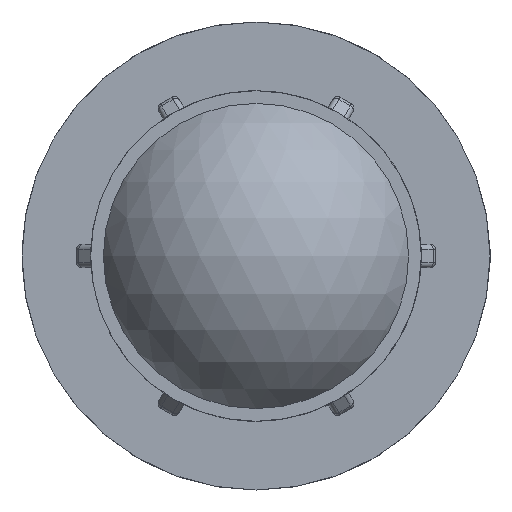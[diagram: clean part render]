
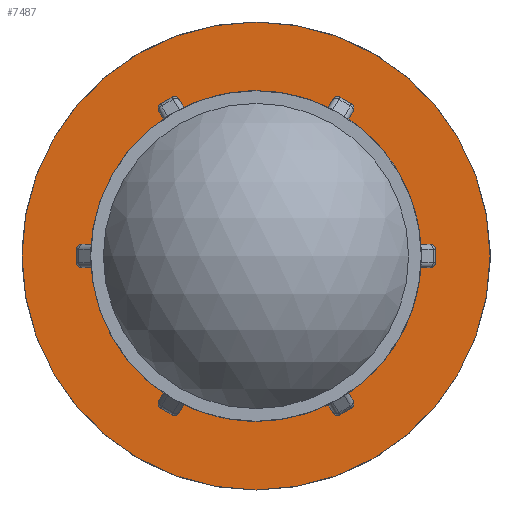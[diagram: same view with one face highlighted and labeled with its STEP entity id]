
A CAD part, left-side view. The second image highlights one B-rep face of the part: STEP entity #7487.
In plain terms, the highlighted planar face has unit normal (-1, 0, 0).
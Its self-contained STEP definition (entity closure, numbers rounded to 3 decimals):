
#23=FACE_BOUND('',#1402,.T.);
#105=ELLIPSE('',#7564,1.414,1.);
#106=ELLIPSE('',#7585,1.414,1.);
#109=ELLIPSE('',#7680,1.414,1.);
#110=ELLIPSE('',#7701,1.414,1.);
#113=ELLIPSE('',#7796,1.414,1.);
#114=ELLIPSE('',#7817,1.414,1.);
#117=ELLIPSE('',#7912,1.414,1.);
#118=ELLIPSE('',#7933,1.414,1.);
#121=ELLIPSE('',#8028,1.414,1.);
#122=ELLIPSE('',#8049,1.414,1.);
#126=ELLIPSE('',#8325,1.414,1.);
#127=ELLIPSE('',#8346,1.414,1.);
#279=PLANE('',#8402);
#931=FACE_OUTER_BOUND('',#1401,.T.);
#1401=EDGE_LOOP('',(#6788));
#1402=EDGE_LOOP('',(#6789,#6790,#6791,#6792,#6793,#6794,#6795,#6796,#6797,
#6798,#6799,#6800,#6801,#6802,#6803,#6804,#6805,#6806,#6807,#6808,#6809,
#6810,#6811,#6812));
#1449=LINE('',#11006,#1899);
#1508=LINE('',#11469,#1958);
#1567=LINE('',#11940,#2017);
#1626=LINE('',#12407,#2076);
#1685=LINE('',#12870,#2135);
#1834=LINE('',#14289,#2284);
#1899=VECTOR('',#8589,2.6);
#1958=VECTOR('',#8880,2.6);
#2017=VECTOR('',#9171,2.6);
#2076=VECTOR('',#9462,2.6);
#2135=VECTOR('',#9753,2.6);
#2284=VECTOR('',#10496,2.6);
#2711=CIRCLE('',#8216,32.13);
#2713=CIRCLE('',#8219,32.13);
#2715=CIRCLE('',#8222,32.13);
#2717=CIRCLE('',#8225,32.13);
#2719=CIRCLE('',#8228,32.13);
#2722=CIRCLE('',#8232,32.13);
#2812=CIRCLE('',#8403,46.);
#2872=VERTEX_POINT('',#10986);
#2873=VERTEX_POINT('',#10998);
#2875=VERTEX_POINT('',#11004);
#2888=VERTEX_POINT('',#11061);
#2959=VERTEX_POINT('',#11449);
#2960=VERTEX_POINT('',#11461);
#2962=VERTEX_POINT('',#11467);
#2975=VERTEX_POINT('',#11524);
#3046=VERTEX_POINT('',#11920);
#3047=VERTEX_POINT('',#11932);
#3049=VERTEX_POINT('',#11938);
#3062=VERTEX_POINT('',#11995);
#3133=VERTEX_POINT('',#12387);
#3134=VERTEX_POINT('',#12399);
#3136=VERTEX_POINT('',#12405);
#3149=VERTEX_POINT('',#12462);
#3220=VERTEX_POINT('',#12850);
#3221=VERTEX_POINT('',#12862);
#3223=VERTEX_POINT('',#12868);
#3236=VERTEX_POINT('',#12925);
#3394=VERTEX_POINT('',#13947);
#3399=VERTEX_POINT('',#13984);
#3452=VERTEX_POINT('',#14281);
#3454=VERTEX_POINT('',#14287);
#3483=VERTEX_POINT('',#14460);
#3570=EDGE_CURVE('',#2873,#2872,#105,.F.);
#3573=EDGE_CURVE('',#2873,#2875,#1449,.T.);
#3598=EDGE_CURVE('',#2875,#2888,#106,.T.);
#3710=EDGE_CURVE('',#2960,#2959,#109,.F.);
#3713=EDGE_CURVE('',#2960,#2962,#1508,.T.);
#3738=EDGE_CURVE('',#2962,#2975,#110,.T.);
#3850=EDGE_CURVE('',#3047,#3046,#113,.F.);
#3853=EDGE_CURVE('',#3047,#3049,#1567,.T.);
#3878=EDGE_CURVE('',#3049,#3062,#114,.T.);
#3990=EDGE_CURVE('',#3134,#3133,#117,.F.);
#3993=EDGE_CURVE('',#3134,#3136,#1626,.T.);
#4018=EDGE_CURVE('',#3136,#3149,#118,.T.);
#4130=EDGE_CURVE('',#3221,#3220,#121,.F.);
#4133=EDGE_CURVE('',#3221,#3223,#1685,.T.);
#4158=EDGE_CURVE('',#3223,#3236,#122,.T.);
#4421=EDGE_CURVE('',#3394,#3220,#2711,.T.);
#4425=EDGE_CURVE('',#3236,#3133,#2713,.T.);
#4427=EDGE_CURVE('',#3149,#3046,#2715,.T.);
#4429=EDGE_CURVE('',#3062,#2959,#2717,.T.);
#4431=EDGE_CURVE('',#2975,#2872,#2719,.T.);
#4436=EDGE_CURVE('',#2888,#3399,#2722,.T.);
#4534=EDGE_CURVE('',#3452,#3399,#126,.F.);
#4537=EDGE_CURVE('',#3452,#3454,#1834,.T.);
#4561=EDGE_CURVE('',#3454,#3394,#127,.T.);
#4602=EDGE_CURVE('',#3483,#3483,#2812,.T.);
#6788=ORIENTED_EDGE('',*,*,#4602,.F.);
#6789=ORIENTED_EDGE('',*,*,#4436,.T.);
#6790=ORIENTED_EDGE('',*,*,#4534,.F.);
#6791=ORIENTED_EDGE('',*,*,#4537,.T.);
#6792=ORIENTED_EDGE('',*,*,#4561,.T.);
#6793=ORIENTED_EDGE('',*,*,#4421,.T.);
#6794=ORIENTED_EDGE('',*,*,#4130,.F.);
#6795=ORIENTED_EDGE('',*,*,#4133,.T.);
#6796=ORIENTED_EDGE('',*,*,#4158,.T.);
#6797=ORIENTED_EDGE('',*,*,#4425,.T.);
#6798=ORIENTED_EDGE('',*,*,#3990,.F.);
#6799=ORIENTED_EDGE('',*,*,#3993,.T.);
#6800=ORIENTED_EDGE('',*,*,#4018,.T.);
#6801=ORIENTED_EDGE('',*,*,#4427,.T.);
#6802=ORIENTED_EDGE('',*,*,#3850,.F.);
#6803=ORIENTED_EDGE('',*,*,#3853,.T.);
#6804=ORIENTED_EDGE('',*,*,#3878,.T.);
#6805=ORIENTED_EDGE('',*,*,#4429,.T.);
#6806=ORIENTED_EDGE('',*,*,#3710,.F.);
#6807=ORIENTED_EDGE('',*,*,#3713,.T.);
#6808=ORIENTED_EDGE('',*,*,#3738,.T.);
#6809=ORIENTED_EDGE('',*,*,#4431,.T.);
#6810=ORIENTED_EDGE('',*,*,#3570,.F.);
#6811=ORIENTED_EDGE('',*,*,#3573,.T.);
#6812=ORIENTED_EDGE('',*,*,#3598,.T.);
#7487=ADVANCED_FACE('',(#931,#23),#279,.T.);
#7564=AXIS2_PLACEMENT_3D('',#11000,#8583,#8584);
#7585=AXIS2_PLACEMENT_3D('',#11062,#8645,#8646);
#7680=AXIS2_PLACEMENT_3D('',#11463,#8874,#8875);
#7701=AXIS2_PLACEMENT_3D('',#11525,#8936,#8937);
#7796=AXIS2_PLACEMENT_3D('',#11934,#9165,#9166);
#7817=AXIS2_PLACEMENT_3D('',#11996,#9227,#9228);
#7912=AXIS2_PLACEMENT_3D('',#12401,#9456,#9457);
#7933=AXIS2_PLACEMENT_3D('',#12463,#9518,#9519);
#8028=AXIS2_PLACEMENT_3D('',#12864,#9747,#9748);
#8049=AXIS2_PLACEMENT_3D('',#12926,#9809,#9810);
#8216=AXIS2_PLACEMENT_3D('',#13948,#10236,#10237);
#8219=AXIS2_PLACEMENT_3D('',#13966,#10242,#10243);
#8222=AXIS2_PLACEMENT_3D('',#13969,#10248,#10249);
#8225=AXIS2_PLACEMENT_3D('',#13972,#10254,#10255);
#8228=AXIS2_PLACEMENT_3D('',#13975,#10260,#10261);
#8232=AXIS2_PLACEMENT_3D('',#13995,#10268,#10269);
#8325=AXIS2_PLACEMENT_3D('',#14283,#10490,#10491);
#8346=AXIS2_PLACEMENT_3D('',#14337,#10552,#10553);
#8402=AXIS2_PLACEMENT_3D('',#14459,#10677,#10678);
#8403=AXIS2_PLACEMENT_3D('',#14461,#10679,#10680);
#8583=DIRECTION('center_axis',(1.,0.,0.));
#8584=DIRECTION('ref_axis',(0.,0.5,-0.866));
#8589=DIRECTION('',(0.,0.866,0.5));
#8645=DIRECTION('center_axis',(1.,0.,0.));
#8646=DIRECTION('ref_axis',(0.,0.5,-0.866));
#8874=DIRECTION('center_axis',(1.,0.,0.));
#8875=DIRECTION('ref_axis',(0.,-0.5,-0.866));
#8880=DIRECTION('',(0.,0.866,-0.5));
#8936=DIRECTION('center_axis',(1.,0.,0.));
#8937=DIRECTION('ref_axis',(0.,-0.5,-0.866));
#9165=DIRECTION('center_axis',(1.,0.,0.));
#9166=DIRECTION('ref_axis',(0.,-1.,0.));
#9171=DIRECTION('',(0.,0.,-1.));
#9227=DIRECTION('center_axis',(1.,0.,0.));
#9228=DIRECTION('ref_axis',(0.,-1.,0.));
#9456=DIRECTION('center_axis',(1.,0.,0.));
#9457=DIRECTION('ref_axis',(0.,-0.5,0.866));
#9462=DIRECTION('',(0.,-0.866,-0.5));
#9518=DIRECTION('center_axis',(1.,0.,0.));
#9519=DIRECTION('ref_axis',(0.,-0.5,0.866));
#9747=DIRECTION('center_axis',(1.,0.,0.));
#9748=DIRECTION('ref_axis',(0.,0.5,0.866));
#9753=DIRECTION('',(0.,-0.866,0.5));
#9809=DIRECTION('center_axis',(1.,0.,0.));
#9810=DIRECTION('ref_axis',(0.,0.5,0.866));
#10236=DIRECTION('center_axis',(1.,0.,0.));
#10237=DIRECTION('ref_axis',(0.,0.,-1.));
#10242=DIRECTION('center_axis',(1.,0.,0.));
#10243=DIRECTION('ref_axis',(0.,0.,-1.));
#10248=DIRECTION('center_axis',(1.,0.,0.));
#10249=DIRECTION('ref_axis',(0.,0.,-1.));
#10254=DIRECTION('center_axis',(1.,0.,0.));
#10255=DIRECTION('ref_axis',(0.,0.,-1.));
#10260=DIRECTION('center_axis',(1.,0.,0.));
#10261=DIRECTION('ref_axis',(0.,0.,-1.));
#10268=DIRECTION('center_axis',(1.,0.,0.));
#10269=DIRECTION('ref_axis',(0.,0.,-1.));
#10490=DIRECTION('center_axis',(1.,0.,0.));
#10491=DIRECTION('ref_axis',(0.,1.,0.));
#10496=DIRECTION('',(0.,0.,1.));
#10552=DIRECTION('center_axis',(1.,0.,0.));
#10553=DIRECTION('ref_axis',(0.,1.,0.));
#10677=DIRECTION('center_axis',(-1.,0.,0.));
#10678=DIRECTION('ref_axis',(0.,0.,1.));
#10679=DIRECTION('center_axis',(1.,0.,0.));
#10680=DIRECTION('ref_axis',(0.,0.,-1.));
#10986=CARTESIAN_POINT('',(46.14,14.726,-28.556));
#10998=CARTESIAN_POINT('',(46.14,14.939,-28.475));
#11000=CARTESIAN_POINT('Origin',(46.14,14.232,-27.251));
#11004=CARTESIAN_POINT('',(46.14,17.191,-27.175));
#11006=CARTESIAN_POINT('',(46.14,33.315,-17.866));
#11061=CARTESIAN_POINT('',(46.14,17.367,-27.032));
#11062=CARTESIAN_POINT('Origin',(46.14,16.484,-25.951));
#11449=CARTESIAN_POINT('',(46.14,-17.367,-27.032));
#11461=CARTESIAN_POINT('',(46.14,-17.191,-27.175));
#11463=CARTESIAN_POINT('Origin',(46.14,-16.484,-25.951));
#11467=CARTESIAN_POINT('',(46.14,-14.939,-28.475));
#11469=CARTESIAN_POINT('',(46.14,1.185,-37.785));
#11524=CARTESIAN_POINT('',(46.14,-14.726,-28.556));
#11525=CARTESIAN_POINT('Origin',(46.14,-14.232,-27.251));
#11920=CARTESIAN_POINT('',(46.14,-32.094,1.525));
#11932=CARTESIAN_POINT('',(46.14,-32.13,1.3));
#11934=CARTESIAN_POINT('Origin',(46.14,-30.716,1.3));
#11938=CARTESIAN_POINT('',(46.14,-32.13,-1.3));
#11940=CARTESIAN_POINT('',(46.14,-32.13,0.));
#11995=CARTESIAN_POINT('',(46.14,-32.094,-1.525));
#11996=CARTESIAN_POINT('Origin',(46.14,-30.716,-1.3));
#12387=CARTESIAN_POINT('',(46.14,-14.726,28.556));
#12399=CARTESIAN_POINT('',(46.14,-14.939,28.475));
#12401=CARTESIAN_POINT('Origin',(46.14,-14.232,27.251));
#12405=CARTESIAN_POINT('',(46.14,-17.191,27.175));
#12407=CARTESIAN_POINT('',(46.14,1.185,37.785));
#12462=CARTESIAN_POINT('',(46.14,-17.367,27.032));
#12463=CARTESIAN_POINT('Origin',(46.14,-16.484,25.951));
#12850=CARTESIAN_POINT('',(46.14,17.367,27.032));
#12862=CARTESIAN_POINT('',(46.14,17.191,27.175));
#12864=CARTESIAN_POINT('Origin',(46.14,16.484,25.951));
#12868=CARTESIAN_POINT('',(46.14,14.939,28.475));
#12870=CARTESIAN_POINT('',(46.14,33.315,17.866));
#12925=CARTESIAN_POINT('',(46.14,14.726,28.556));
#12926=CARTESIAN_POINT('Origin',(46.14,14.232,27.251));
#13947=CARTESIAN_POINT('',(46.14,32.094,1.525));
#13948=CARTESIAN_POINT('Origin',(46.14,0.,
0.));
#13966=CARTESIAN_POINT('Origin',(46.14,0.,
0.));
#13969=CARTESIAN_POINT('Origin',(46.14,0.,
0.));
#13972=CARTESIAN_POINT('Origin',(46.14,0.,
0.));
#13975=CARTESIAN_POINT('Origin',(46.14,0.,
0.));
#13984=CARTESIAN_POINT('',(46.14,32.094,-1.525));
#13995=CARTESIAN_POINT('Origin',(46.14,0.,
0.));
#14281=CARTESIAN_POINT('',(46.14,32.13,-1.3));
#14283=CARTESIAN_POINT('Origin',(46.14,30.716,-1.3));
#14287=CARTESIAN_POINT('',(46.14,32.13,1.3));
#14289=CARTESIAN_POINT('',(46.14,32.13,0.));
#14337=CARTESIAN_POINT('Origin',(46.14,30.716,1.3));
#14459=CARTESIAN_POINT('Origin',(46.14,46.,0.));
#14460=CARTESIAN_POINT('',(46.14,46.,0.));
#14461=CARTESIAN_POINT('Origin',(46.14,0.,
0.));
